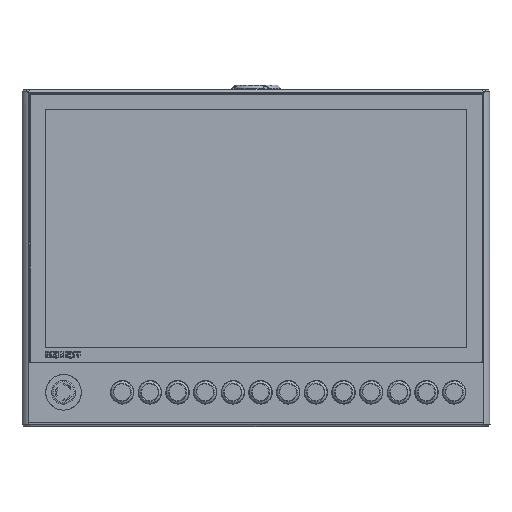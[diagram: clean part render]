
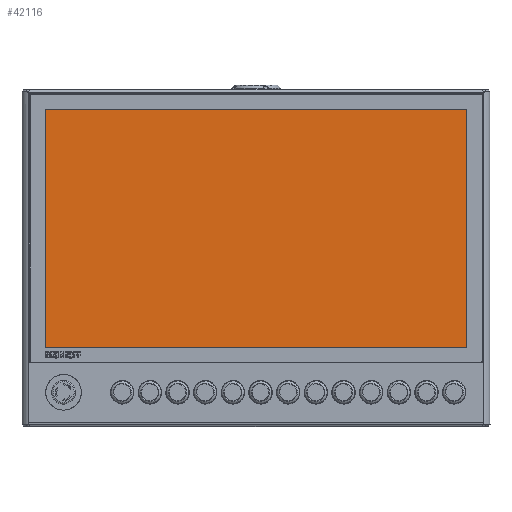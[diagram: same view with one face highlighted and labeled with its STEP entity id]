
A CAD part, top view. The second image highlights one B-rep face of the part: STEP entity #42116.
In plain terms, the highlighted planar face has unit normal (0, 0, 1).
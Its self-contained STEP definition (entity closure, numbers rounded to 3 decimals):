
#3354=LINE('',#74261,#6684);
#3355=LINE('',#74263,#6685);
#3356=LINE('',#74265,#6686);
#3357=LINE('',#74266,#6687);
#6684=VECTOR('',#56619,301.);
#6685=VECTOR('',#56620,533.4);
#6686=VECTOR('',#56621,301.);
#6687=VECTOR('',#56622,533.4);
#8760=PLANE('',#45997);
#11991=FACE_OUTER_BOUND('',#14853,.T.);
#14853=EDGE_LOOP('',(#36230,#36231,#36232,#36233));
#20159=VERTEX_POINT('',#74259);
#20160=VERTEX_POINT('',#74260);
#20161=VERTEX_POINT('',#74262);
#20162=VERTEX_POINT('',#74264);
#25593=EDGE_CURVE('',#20159,#20160,#3354,.T.);
#25594=EDGE_CURVE('',#20161,#20159,#3355,.T.);
#25595=EDGE_CURVE('',#20162,#20161,#3356,.T.);
#25596=EDGE_CURVE('',#20160,#20162,#3357,.T.);
#36230=ORIENTED_EDGE('',*,*,#25593,.F.);
#36231=ORIENTED_EDGE('',*,*,#25594,.F.);
#36232=ORIENTED_EDGE('',*,*,#25595,.F.);
#36233=ORIENTED_EDGE('',*,*,#25596,.F.);
#42116=ADVANCED_FACE('',(#11991),#8760,.T.);
#45997=AXIS2_PLACEMENT_3D('',#74258,#56617,#56618);
#56617=DIRECTION('center_axis',(0.,0.,
1.));
#56618=DIRECTION('ref_axis',(1.,0.,0.));
#56619=DIRECTION('',(0.,-1.,0.));
#56620=DIRECTION('',(1.,0.,0.));
#56621=DIRECTION('',(0.,1.,0.));
#56622=DIRECTION('',(-1.,0.,0.));
#74258=CARTESIAN_POINT('Origin',(0.1,0.1,12.3));
#74259=CARTESIAN_POINT('',(266.8,150.6,12.3));
#74260=CARTESIAN_POINT('',(266.8,-150.4,12.3));
#74261=CARTESIAN_POINT('',(266.8,-75.15,12.3));
#74262=CARTESIAN_POINT('',(-266.6,150.6,12.3));
#74263=CARTESIAN_POINT('',(133.45,150.6,12.3));
#74264=CARTESIAN_POINT('',(-266.6,-150.4,12.3));
#74265=CARTESIAN_POINT('',(-266.6,75.35,12.3));
#74266=CARTESIAN_POINT('',(-133.25,-150.4,12.3));
